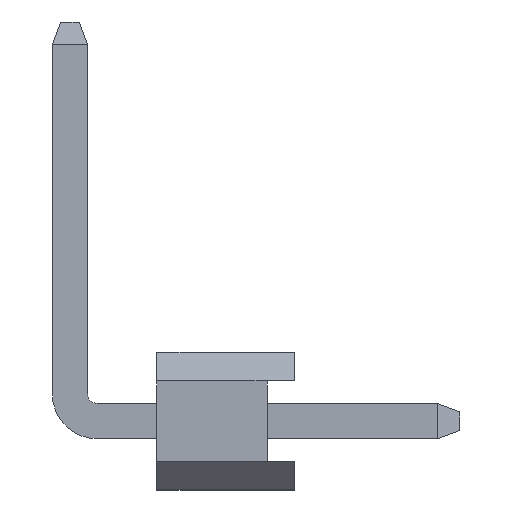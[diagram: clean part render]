
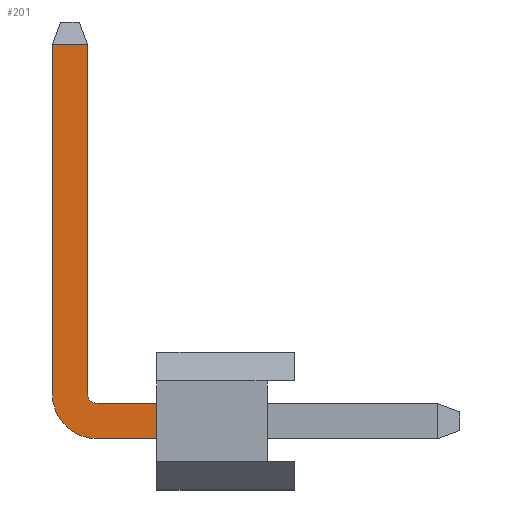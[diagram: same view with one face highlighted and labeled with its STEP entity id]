
A CAD part, left-side view. The second image highlights one B-rep face of the part: STEP entity #201.
In plain terms, the highlighted planar face has unit normal (-1, 0, 0).
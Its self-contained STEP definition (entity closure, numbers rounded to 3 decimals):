
#201 = ADVANCED_FACE ( 'NONE', ( #6332 ), #1092, .T. ) ;
#347 = VECTOR ( 'NONE', #11036, 1000. ) ;
#1092 = PLANE ( 'NONE',  #1215 ) ;
#1107 = ORIENTED_EDGE ( 'NONE', *, *, #5431, .F. ) ;
#1214 = CARTESIAN_POINT ( 'NONE',  ( -4.11, 4.74, 11.629 ) ) ;
#1215 = AXIS2_PLACEMENT_3D ( 'NONE', #5253, #9830, #6271 ) ;
#1558 = ORIENTED_EDGE ( 'NONE', *, *, #1836, .T. ) ;
#1569 = CARTESIAN_POINT ( 'NONE',  ( -4.11, 3.26, 5.279 ) ) ;
#1588 = EDGE_CURVE ( 'NONE', #3423, #3323, #9081, .T. ) ;
#1717 = CARTESIAN_POINT ( 'NONE',  ( -4.11, 3.08, 5.279 ) ) ;
#1817 = VECTOR ( 'NONE', #6804, 1000. ) ;
#1836 = EDGE_CURVE ( 'NONE', #4949, #2299, #2482, .T. ) ;
#1875 = AXIS2_PLACEMENT_3D ( 'NONE', #1717, #6896, #7804 ) ;
#2146 = ORIENTED_EDGE ( 'NONE', *, *, #1588, .F. ) ;
#2299 = VERTEX_POINT ( 'NONE', #7963 ) ;
#2399 = CARTESIAN_POINT ( 'NONE',  ( -4.11, 3.9, 5.279 ) ) ;
#2482 = LINE ( 'NONE', #10469, #7534 ) ;
#2713 = EDGE_CURVE ( 'NONE', #10294, #9712, #5363, .T. ) ;
#3323 = VERTEX_POINT ( 'NONE', #9286 ) ;
#3374 = CARTESIAN_POINT ( 'NONE',  ( -4.11, 3.9, 11.629 ) ) ;
#3423 = VERTEX_POINT ( 'NONE', #3374 ) ;
#3770 = CARTESIAN_POINT ( 'NONE',  ( -4.11, 3.26, 5.279 ) ) ;
#3804 = CARTESIAN_POINT ( 'NONE',  ( -4.11, 3.08, 5.099 ) ) ;
#3990 = ORIENTED_EDGE ( 'NONE', *, *, #10508, .T. ) ;
#4233 = DIRECTION ( 'NONE',  ( 0., 0., 1. ) ) ;
#4256 = VERTEX_POINT ( 'NONE', #3804 ) ;
#4391 = CARTESIAN_POINT ( 'NONE',  ( -4.11, 3.08, 4.459 ) ) ;
#4499 = VECTOR ( 'NONE', #8855, 1000. ) ;
#4741 = CIRCLE ( 'NONE', #10609, 0.18 ) ;
#4949 = VERTEX_POINT ( 'NONE', #7526 ) ;
#5253 = CARTESIAN_POINT ( 'NONE',  ( -4.11, 5.9, 5.099 ) ) ;
#5279 = DIRECTION ( 'NONE',  ( 1., 0., 0. ) ) ;
#5335 = VECTOR ( 'NONE', #10814, 1000. ) ;
#5360 = CARTESIAN_POINT ( 'NONE',  ( -4.11, 5.9, 4.459 ) ) ;
#5363 = CIRCLE ( 'NONE', #1875, 0.82 ) ;
#5431 = EDGE_CURVE ( 'NONE', #9712, #3423, #9342, .T. ) ;
#5679 = VERTEX_POINT ( 'NONE', #3770 ) ;
#5991 = DIRECTION ( 'NONE',  ( 0., 0., 1. ) ) ;
#6096 = ORIENTED_EDGE ( 'NONE', *, *, #7299, .T. ) ;
#6271 = DIRECTION ( 'NONE',  ( 0., -1., 0. ) ) ;
#6332 = FACE_OUTER_BOUND ( 'NONE', #8250, .T. ) ;
#6415 = CARTESIAN_POINT ( 'NONE',  ( -4.11, 3.9, 5.279 ) ) ;
#6675 = CARTESIAN_POINT ( 'NONE',  ( -4.11, 5.9, 5.099 ) ) ;
#6713 = EDGE_CURVE ( 'NONE', #4256, #5679, #4741, .T. ) ;
#6804 = DIRECTION ( 'NONE',  ( 0., 0., 1. ) ) ;
#6896 = DIRECTION ( 'NONE',  ( 1., 0., 0. ) ) ;
#7299 = EDGE_CURVE ( 'NONE', #5679, #3323, #10072, .T. ) ;
#7526 = CARTESIAN_POINT ( 'NONE',  ( -4.11, 2., 4.459 ) ) ;
#7528 = LINE ( 'NONE', #6675, #347 ) ;
#7532 = ORIENTED_EDGE ( 'NONE', *, *, #7736, .F. ) ;
#7534 = VECTOR ( 'NONE', #5991, 1000. ) ;
#7736 = EDGE_CURVE ( 'NONE', #4256, #2299, #7528, .T. ) ;
#7804 = DIRECTION ( 'NONE',  ( 0., 0., -1. ) ) ;
#7963 = CARTESIAN_POINT ( 'NONE',  ( -4.11, 2., 5.099 ) ) ;
#7969 = CARTESIAN_POINT ( 'NONE',  ( -4.11, 3.08, 5.279 ) ) ;
#7975 = VECTOR ( 'NONE', #4233, 1000. ) ;
#8250 = EDGE_LOOP ( 'NONE', ( #1558, #7532, #10682, #6096, #2146, #1107, #9254, #3990 ) ) ;
#8769 = DIRECTION ( 'NONE',  ( 0., 0., -1. ) ) ;
#8855 = DIRECTION ( 'NONE',  ( 0., -1., 0. ) ) ;
#9081 = LINE ( 'NONE', #1214, #5335 ) ;
#9254 = ORIENTED_EDGE ( 'NONE', *, *, #2713, .F. ) ;
#9286 = CARTESIAN_POINT ( 'NONE',  ( -4.11, 3.26, 11.629 ) ) ;
#9342 = LINE ( 'NONE', #2399, #7975 ) ;
#9712 = VERTEX_POINT ( 'NONE', #6415 ) ;
#9725 = LINE ( 'NONE', #5360, #4499 ) ;
#9830 = DIRECTION ( 'NONE',  ( -1., 0., 0. ) ) ;
#10072 = LINE ( 'NONE', #1569, #1817 ) ;
#10294 = VERTEX_POINT ( 'NONE', #4391 ) ;
#10469 = CARTESIAN_POINT ( 'NONE',  ( -4.11, 2., 5.099 ) ) ;
#10508 = EDGE_CURVE ( 'NONE', #10294, #4949, #9725, .T. ) ;
#10609 = AXIS2_PLACEMENT_3D ( 'NONE', #7969, #5279, #8769 ) ;
#10682 = ORIENTED_EDGE ( 'NONE', *, *, #6713, .T. ) ;
#10814 = DIRECTION ( 'NONE',  ( 0., -1., 0. ) ) ;
#11036 = DIRECTION ( 'NONE',  ( 0., -1., 0. ) ) ;
